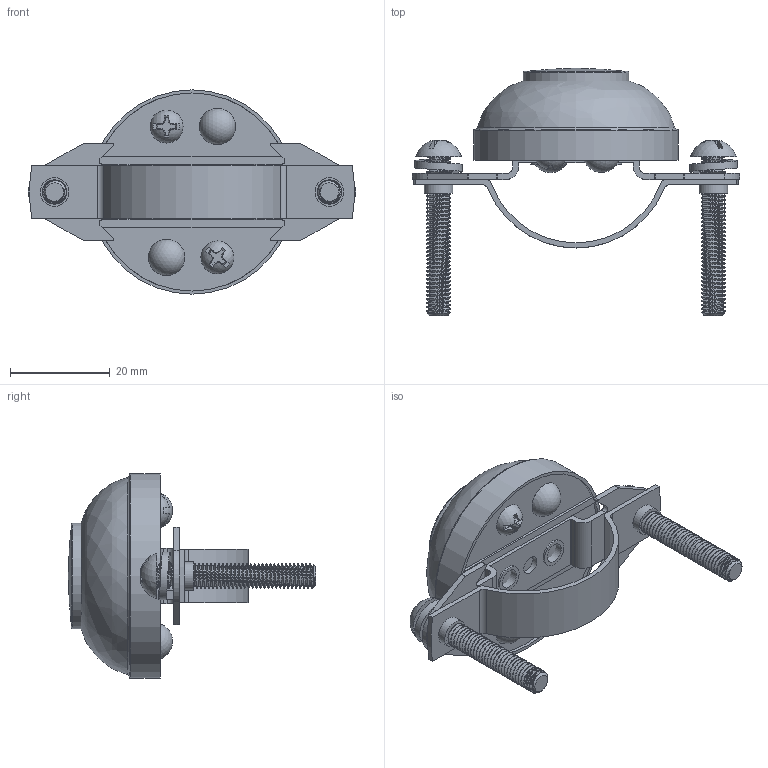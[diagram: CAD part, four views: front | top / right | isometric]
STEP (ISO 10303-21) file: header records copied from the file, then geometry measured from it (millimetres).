
FILE_DESCRIPTION(/* description */ (''),/* implementation_level */ '2;1');
FILE_NAME(/* name */ 'C:\Users\Hani\Desktop\work\PG1-1B-DC\PG1-1B-DC.stp',/* time_stamp */ '2019-11-19T21:07:50-08:00',/* author */ ('Hani'),/* organization */ (''),/* preprocessor_version */ 'ST-DEVELOPER v17',/* originating_system */ 'Autodesk Inventor 2019',/* authorisation */ '');
FILE_SCHEMA (('AUTOMOTIVE_DESIGN { 1 0 10303 214 3 1 1 }'));
Products named in the file (11): PG1-1B-DC; bottom; base; clamp; SPLIT LOCK WASHER; SPLIT LOCK WASHER_MIR; SCREW; SCREW_MIR; short SCREW; RIVETS; RIVET NUT
Assembly tree (13 placements, depth 2):
  PG1-1B-DC
    bottom
    base
    clamp
    SPLIT LOCK WASHER
    SPLIT LOCK WASHER_MIR
    SCREW
    SCREW_MIR
    short SCREW  x2
    RIVETS  x2
    RIVET NUT  x2
Bounding box: 65.47 x 49.45 x 40.89 mm (x, y, z)
Volume: 6914.1 mm3; surface area: 15178.5 mm2
Topology: 13 solids, 13 shells, 2024 faces, 5126 edges, 3136 vertices
Faces by surface type: plane 1682, cylinder 272, cone 34, bspline 24, torus 6, sphere 6
Full cylindrical faces by diameter (mm): 2.051 x10, 2.481 x14, 3.505 x12, 3.708 x5, 3.802 x78, 3.962 x2, 3.969 x2, 3.988 x2, 4.75 x6, 4.826 x76, 5.512 x2, 5.715 x2, 19.837 x1, 21.107 x1, 39.624 x2, 40.894 x1
Entity records: 54174 total; most frequent: CARTESIAN_POINT 24910, ORIENTED_EDGE 6126, DIRECTION 5511, EDGE_CURVE 3063, LINE 2131, VECTOR 2131, VERTEX_POINT 1907, AXIS2_PLACEMENT_3D 1690
